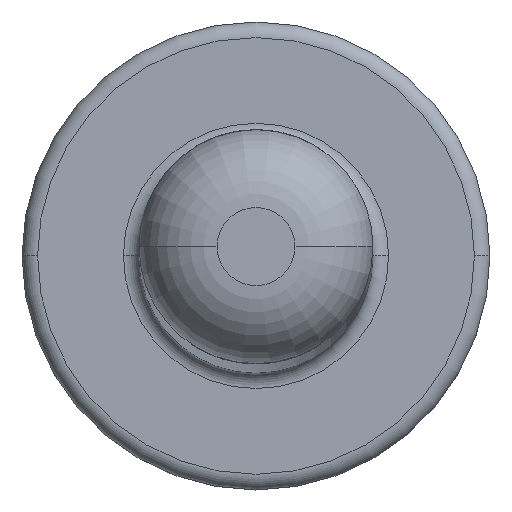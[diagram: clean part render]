
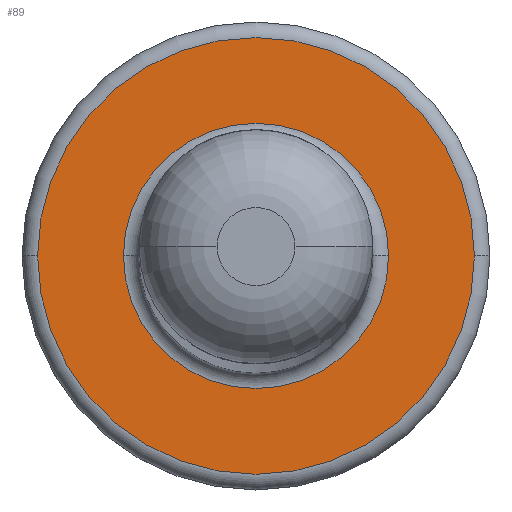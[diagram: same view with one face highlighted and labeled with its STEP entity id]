
A CAD part, top view. The second image highlights one B-rep face of the part: STEP entity #89.
In plain terms, the highlighted planar face has unit normal (0, 0, 1).
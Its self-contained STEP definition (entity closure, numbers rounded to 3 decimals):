
#5 = FACE_BOUND ( 'NONE', #1058, .T. ) ;
#12 = FACE_OUTER_BOUND ( 'NONE', #436, .T. ) ;
#27 = CARTESIAN_POINT ( 'NONE',  ( 0., 0., 5. ) ) ;
#41 = CIRCLE ( 'NONE', #318, 14. ) ;
#50 = VERTEX_POINT ( 'NONE', #1277 ) ;
#89 = ADVANCED_FACE ( 'NONE', ( #12, #5 ), #903, .F. ) ;
#122 = DIRECTION ( 'NONE',  ( -1., 0., 0. ) ) ;
#157 = DIRECTION ( 'NONE',  ( 0., 0., -1. ) ) ;
#205 = EDGE_CURVE ( 'NONE', #889, #913, #527, .T. ) ;
#209 = AXIS2_PLACEMENT_3D ( 'NONE', #1036, #157, #647 ) ;
#241 = EDGE_CURVE ( 'NONE', #50, #850, #773, .T. ) ;
#261 = DIRECTION ( 'NONE',  ( 0., 0., 1. ) ) ;
#298 = AXIS2_PLACEMENT_3D ( 'NONE', #27, #261, #846 ) ;
#318 = AXIS2_PLACEMENT_3D ( 'NONE', #714, #540, #122 ) ;
#436 = EDGE_LOOP ( 'NONE', ( #728, #525 ) ) ;
#498 = ORIENTED_EDGE ( 'NONE', *, *, #241, .T. ) ;
#525 = ORIENTED_EDGE ( 'NONE', *, *, #205, .T. ) ;
#527 = CIRCLE ( 'NONE', #298, 14. ) ;
#540 = DIRECTION ( 'NONE',  ( 0., 0., 1. ) ) ;
#615 = AXIS2_PLACEMENT_3D ( 'NONE', #800, #1308, #1003 ) ;
#647 = DIRECTION ( 'NONE',  ( -1., 0., 0. ) ) ;
#693 = AXIS2_PLACEMENT_3D ( 'NONE', #724, #1103, #885 ) ;
#714 = CARTESIAN_POINT ( 'NONE',  ( 0., 0., 5. ) ) ;
#724 = CARTESIAN_POINT ( 'NONE',  ( 0., 0., 5. ) ) ;
#728 = ORIENTED_EDGE ( 'NONE', *, *, #1063, .T. ) ;
#773 = CIRCLE ( 'NONE', #209, 8.5 ) ;
#800 = CARTESIAN_POINT ( 'NONE',  ( 0., 0., 5. ) ) ;
#846 = DIRECTION ( 'NONE',  ( -1., 0., 0. ) ) ;
#850 = VERTEX_POINT ( 'NONE', #963 ) ;
#868 = CARTESIAN_POINT ( 'NONE',  ( -14., 0., 5. ) ) ;
#882 = CIRCLE ( 'NONE', #693, 8.5 ) ;
#885 = DIRECTION ( 'NONE',  ( -1., 0., 0. ) ) ;
#889 = VERTEX_POINT ( 'NONE', #1162 ) ;
#903 = PLANE ( 'NONE',  #615 ) ;
#913 = VERTEX_POINT ( 'NONE', #868 ) ;
#963 = CARTESIAN_POINT ( 'NONE',  ( 8.5, 0., 5. ) ) ;
#1003 = DIRECTION ( 'NONE',  ( -1., 0., 0. ) ) ;
#1036 = CARTESIAN_POINT ( 'NONE',  ( 0., 0., 5. ) ) ;
#1058 = EDGE_LOOP ( 'NONE', ( #498, #1236 ) ) ;
#1063 = EDGE_CURVE ( 'NONE', #913, #889, #41, .T. ) ;
#1103 = DIRECTION ( 'NONE',  ( 0., 0., -1. ) ) ;
#1162 = CARTESIAN_POINT ( 'NONE',  ( 14., 0., 5. ) ) ;
#1236 = ORIENTED_EDGE ( 'NONE', *, *, #1287, .T. ) ;
#1277 = CARTESIAN_POINT ( 'NONE',  ( -8.5, 0., 5. ) ) ;
#1287 = EDGE_CURVE ( 'NONE', #850, #50, #882, .T. ) ;
#1308 = DIRECTION ( 'NONE',  ( 0., 0., -1. ) ) ;
